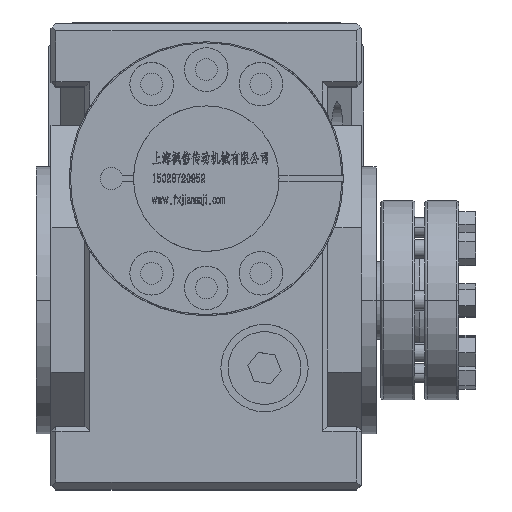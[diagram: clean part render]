
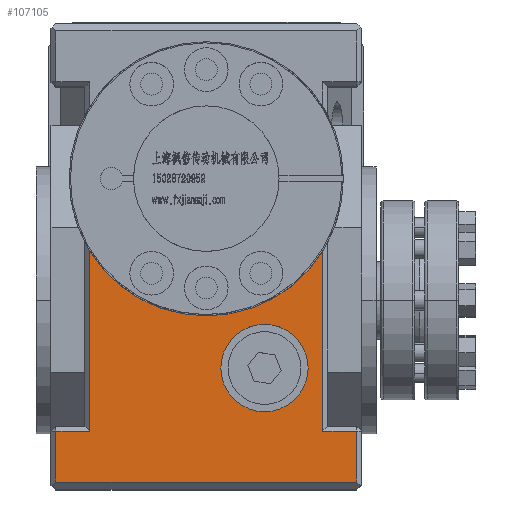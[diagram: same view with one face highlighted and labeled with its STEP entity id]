
A CAD part, top view. The second image highlights one B-rep face of the part: STEP entity #107105.
In plain terms, the highlighted planar face has unit normal (0, 0, 1).
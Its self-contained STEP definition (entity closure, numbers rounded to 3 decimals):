
#65 = PLANE ( 'NONE',  #101773 ) ;
#1651 = DIRECTION ( 'NONE',  ( -1., 0., 0. ) ) ;
#3049 = EDGE_CURVE ( 'NONE', #106014, #99146, #61778, .T. ) ;
#3242 = AXIS2_PLACEMENT_3D ( 'NONE', #27599, #11511, #37077 ) ;
#4606 = DIRECTION ( 'NONE',  ( 0., 1., 0. ) ) ;
#5327 = EDGE_LOOP ( 'NONE', ( #67016, #17437 ) ) ;
#5722 = EDGE_LOOP ( 'NONE', ( #36901, #48884, #18339, #24555, #90386, #105393, #37070, #17880 ) ) ;
#8421 = DIRECTION ( 'NONE',  ( 0., 0., -1. ) ) ;
#9025 = DIRECTION ( 'NONE',  ( 0., 0., 1. ) ) ;
#9174 = LINE ( 'NONE', #61402, #69472 ) ;
#9583 = AXIS2_PLACEMENT_3D ( 'NONE', #33797, #41080, #83896 ) ;
#9992 = CARTESIAN_POINT ( 'NONE',  ( -32., -27., 40. ) ) ;
#10145 = VECTOR ( 'NONE', #76225, 1000. ) ;
#10173 = CARTESIAN_POINT ( 'NONE',  ( -31., -27., 40. ) ) ;
#10602 = EDGE_CURVE ( 'NONE', #99146, #21401, #82773, .T. ) ;
#11511 = DIRECTION ( 'NONE',  ( 0., 0., 1. ) ) ;
#11792 = EDGE_CURVE ( 'NONE', #12214, #46121, #51151, .T. ) ;
#12132 = CARTESIAN_POINT ( 'NONE',  ( -24., -27., 40. ) ) ;
#12214 = VERTEX_POINT ( 'NONE', #108645 ) ;
#14322 = EDGE_CURVE ( 'NONE', #76970, #63830, #37685, .T. ) ;
#14829 = VECTOR ( 'NONE', #4606, 1000. ) ;
#14926 = CARTESIAN_POINT ( 'NONE',  ( 32., -37.5, 40. ) ) ;
#16203 = CARTESIAN_POINT ( 'NONE',  ( -24., 10.098, 40. ) ) ;
#17437 = ORIENTED_EDGE ( 'NONE', *, *, #92262, .F. ) ;
#17880 = ORIENTED_EDGE ( 'NONE', *, *, #47761, .T. ) ;
#18339 = ORIENTED_EDGE ( 'NONE', *, *, #61592, .T. ) ;
#19242 = EDGE_CURVE ( 'NONE', #55278, #81747, #9174, .T. ) ;
#19877 = DIRECTION ( 'NONE',  ( -1., 0., 0. ) ) ;
#21401 = VERTEX_POINT ( 'NONE', #51053 ) ;
#24555 = ORIENTED_EDGE ( 'NONE', *, *, #14322, .T. ) ;
#25049 = DIRECTION ( 'NONE',  ( -1., 0., 0. ) ) ;
#26365 = DIRECTION ( 'NONE',  ( 0., -1., 0. ) ) ;
#26714 = CARTESIAN_POINT ( 'NONE',  ( -31., 57., 40. ) ) ;
#27599 = CARTESIAN_POINT ( 'NONE',  ( 12., -14., 40. ) ) ;
#28435 = CARTESIAN_POINT ( 'NONE',  ( 24., 10.098, 40. ) ) ;
#29370 = VECTOR ( 'NONE', #1651, 1000. ) ;
#33797 = CARTESIAN_POINT ( 'NONE',  ( 0., 25., 40. ) ) ;
#33950 = CARTESIAN_POINT ( 'NONE',  ( 32., 57., 40. ) ) ;
#34494 = FACE_OUTER_BOUND ( 'NONE', #5722, .T. ) ;
#36901 = ORIENTED_EDGE ( 'NONE', *, *, #3049, .T. ) ;
#37070 = ORIENTED_EDGE ( 'NONE', *, *, #19242, .T. ) ;
#37077 = DIRECTION ( 'NONE',  ( 1., 0., 0. ) ) ;
#37685 = LINE ( 'NONE', #88857, #61260 ) ;
#39989 = CIRCLE ( 'NONE', #68356, 9. ) ;
#41080 = DIRECTION ( 'NONE',  ( 0., 0., 1. ) ) ;
#41196 = CARTESIAN_POINT ( 'NONE',  ( 31., -26., 40. ) ) ;
#42924 = DIRECTION ( 'NONE',  ( 1., 0., 0. ) ) ;
#46121 = VERTEX_POINT ( 'NONE', #67609 ) ;
#47761 = EDGE_CURVE ( 'NONE', #81747, #106014, #59465, .T. ) ;
#48884 = ORIENTED_EDGE ( 'NONE', *, *, #10602, .T. ) ;
#51053 = CARTESIAN_POINT ( 'NONE',  ( 31., -37.5, 40. ) ) ;
#51151 = CIRCLE ( 'NONE', #3242, 9. ) ;
#52330 = DIRECTION ( 'NONE',  ( 0., -1., 0. ) ) ;
#55278 = VERTEX_POINT ( 'NONE', #16203 ) ;
#56188 = EDGE_CURVE ( 'NONE', #63830, #100809, #99673, .T. ) ;
#57516 = CIRCLE ( 'NONE', #9583, 28.25 ) ;
#57619 = EDGE_CURVE ( 'NONE', #55278, #100809, #57516, .T. ) ;
#59465 = LINE ( 'NONE', #9992, #29370 ) ;
#61260 = VECTOR ( 'NONE', #19877, 1000. ) ;
#61402 = CARTESIAN_POINT ( 'NONE',  ( -24., -26., 40. ) ) ;
#61592 = EDGE_CURVE ( 'NONE', #21401, #76970, #102884, .T. ) ;
#61778 = LINE ( 'NONE', #26714, #107466 ) ;
#63830 = VERTEX_POINT ( 'NONE', #64513 ) ;
#64513 = CARTESIAN_POINT ( 'NONE',  ( 24., -27., 40. ) ) ;
#67016 = ORIENTED_EDGE ( 'NONE', *, *, #11792, .F. ) ;
#67609 = CARTESIAN_POINT ( 'NONE',  ( 3., -14., 40. ) ) ;
#68356 = AXIS2_PLACEMENT_3D ( 'NONE', #85212, #9025, #42924 ) ;
#69472 = VECTOR ( 'NONE', #26365, 1000. ) ;
#76225 = DIRECTION ( 'NONE',  ( 0., 1., 0. ) ) ;
#76970 = VERTEX_POINT ( 'NONE', #105714 ) ;
#81747 = VERTEX_POINT ( 'NONE', #12132 ) ;
#82773 = LINE ( 'NONE', #14926, #84835 ) ;
#82962 = FACE_BOUND ( 'NONE', #5327, .T. ) ;
#83860 = DIRECTION ( 'NONE',  ( 1., 0., 0. ) ) ;
#83896 = DIRECTION ( 'NONE',  ( 0., 1., 0. ) ) ;
#84835 = VECTOR ( 'NONE', #83860, 1000. ) ;
#85212 = CARTESIAN_POINT ( 'NONE',  ( 12., -14., 40. ) ) ;
#85558 = CARTESIAN_POINT ( 'NONE',  ( -31., -37.5, 40. ) ) ;
#88857 = CARTESIAN_POINT ( 'NONE',  ( 32., -27., 40. ) ) ;
#90386 = ORIENTED_EDGE ( 'NONE', *, *, #56188, .T. ) ;
#92262 = EDGE_CURVE ( 'NONE', #46121, #12214, #39989, .T. ) ;
#99139 = CARTESIAN_POINT ( 'NONE',  ( 24., 11.845, 40. ) ) ;
#99146 = VERTEX_POINT ( 'NONE', #85558 ) ;
#99673 = LINE ( 'NONE', #99139, #14829 ) ;
#100809 = VERTEX_POINT ( 'NONE', #28435 ) ;
#101773 = AXIS2_PLACEMENT_3D ( 'NONE', #33950, #8421, #25049 ) ;
#102884 = LINE ( 'NONE', #41196, #10145 ) ;
#105393 = ORIENTED_EDGE ( 'NONE', *, *, #57619, .F. ) ;
#105714 = CARTESIAN_POINT ( 'NONE',  ( 31., -27., 40. ) ) ;
#106014 = VERTEX_POINT ( 'NONE', #10173 ) ;
#107105 = ADVANCED_FACE ( 'NONE', ( #34494, #82962 ), #65, .F. ) ;
#107466 = VECTOR ( 'NONE', #52330, 1000. ) ;
#108645 = CARTESIAN_POINT ( 'NONE',  ( 21., -14., 40. ) ) ;
